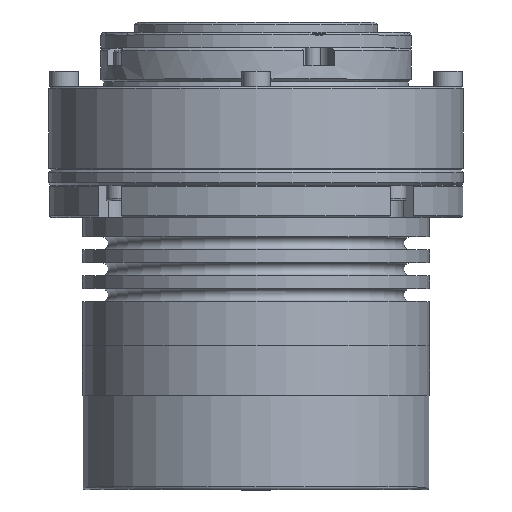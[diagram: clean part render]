
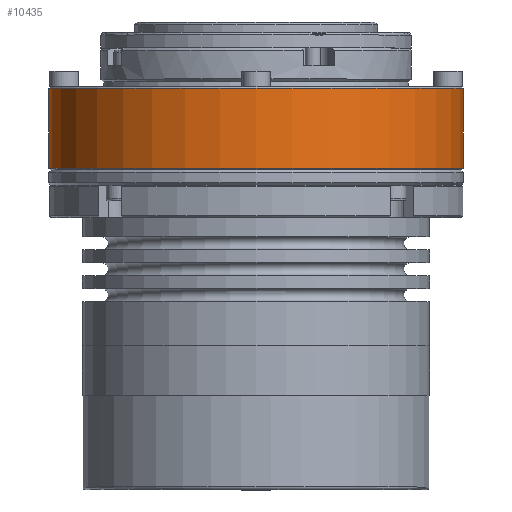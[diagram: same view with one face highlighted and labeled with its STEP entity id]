
A CAD part, top view. The second image highlights one B-rep face of the part: STEP entity #10435.
In plain terms, the highlighted cylindrical face has radius 40 mm (diameter 80 mm), a full revolution.
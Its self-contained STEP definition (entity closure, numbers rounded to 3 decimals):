
#76 = CYLINDRICAL_SURFACE ( 'NONE', #2597, 40. ) ;
#313 = CARTESIAN_POINT ( 'NONE',  ( 0., 28.388, 0. ) ) ;
#1628 = AXIS2_PLACEMENT_3D ( 'NONE', #6232, #21679, #19740 ) ;
#2597 = AXIS2_PLACEMENT_3D ( 'NONE', #313, #8113, #13618 ) ;
#2935 = ORIENTED_EDGE ( 'NONE', *, *, #5138, .T. ) ;
#4138 = VERTEX_POINT ( 'NONE', #14084 ) ;
#5138 = EDGE_CURVE ( 'NONE', #19604, #19604, #20828, .T. ) ;
#5697 = CARTESIAN_POINT ( 'NONE',  ( 0., 0.3, 0. ) ) ;
#6232 = CARTESIAN_POINT ( 'NONE',  ( 0., 15.7, 0. ) ) ;
#7993 = FACE_OUTER_BOUND ( 'NONE', #16686, .T. ) ;
#8113 = DIRECTION ( 'NONE',  ( 0., 1., 0. ) ) ;
#9556 = CARTESIAN_POINT ( 'NONE',  ( 0., 0.3, 40. ) ) ;
#10435 = ADVANCED_FACE ( 'NONE', ( #11699, #7993 ), #76, .T. ) ;
#11699 = FACE_OUTER_BOUND ( 'NONE', #14218, .T. ) ;
#13618 = DIRECTION ( 'NONE',  ( 0., 0., 1. ) ) ;
#14084 = CARTESIAN_POINT ( 'NONE',  ( 0., 15.7, -40. ) ) ;
#14218 = EDGE_LOOP ( 'NONE', ( #19484 ) ) ;
#14268 = CIRCLE ( 'NONE', #1628, 40. ) ;
#15002 = DIRECTION ( 'NONE',  ( 0., 1., 0. ) ) ;
#16686 = EDGE_LOOP ( 'NONE', ( #2935 ) ) ;
#17169 = AXIS2_PLACEMENT_3D ( 'NONE', #5697, #15002, #21124 ) ;
#18828 = EDGE_CURVE ( 'NONE', #4138, #4138, #14268, .T. ) ;
#19484 = ORIENTED_EDGE ( 'NONE', *, *, #18828, .F. ) ;
#19604 = VERTEX_POINT ( 'NONE', #9556 ) ;
#19740 = DIRECTION ( 'NONE',  ( 0., 0., -1. ) ) ;
#20828 = CIRCLE ( 'NONE', #17169, 40. ) ;
#21124 = DIRECTION ( 'NONE',  ( 0., 0., 1. ) ) ;
#21679 = DIRECTION ( 'NONE',  ( 0., 1., 0. ) ) ;
